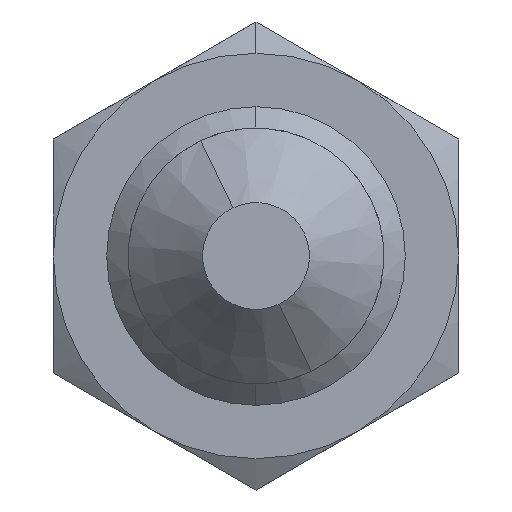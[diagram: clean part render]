
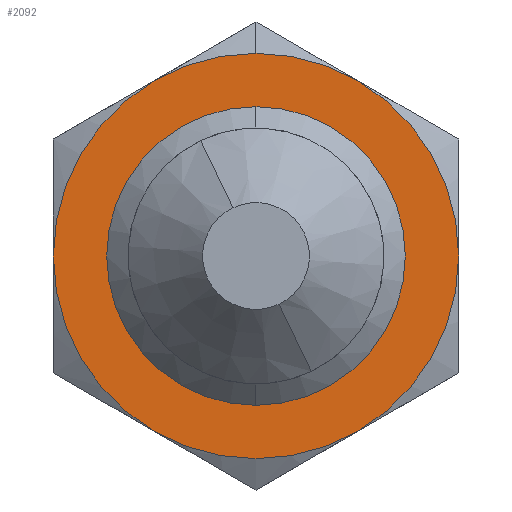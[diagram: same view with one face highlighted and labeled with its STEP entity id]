
A CAD part, left-side view. The second image highlights one B-rep face of the part: STEP entity #2092.
In plain terms, the highlighted planar face has unit normal (-1, 0, 0) as drawn and (0, 0, -1) by its records, which use the part's own axes.
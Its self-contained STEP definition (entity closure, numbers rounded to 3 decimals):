
#869 = VERTEX_POINT ( 'NONE', #3820 ) ;
#2037 = ORIENTED_EDGE ( 'NONE', *, *, #2136, .F. ) ;
#2047 = VERTEX_POINT ( 'NONE', #5920 ) ;
#2074 = VERTEX_POINT ( 'NONE', #6017 ) ;
#2080 = VERTEX_POINT ( 'NONE', #5996 ) ;
#2087 = ORIENTED_EDGE ( 'NONE', *, *, #2088, .T. ) ;
#2088 = EDGE_CURVE ( 'NONE', #2172, #2175, #6034, .T. ) ;
#2089 = ORIENTED_EDGE ( 'NONE', *, *, #2174, .T. ) ;
#2090 = EDGE_LOOP ( 'NONE', ( #2089, #2087 ) ) ;
#2091 = EDGE_LOOP ( 'NONE', ( #2037, #2137, #2139, #2141, #2143, #2145, #2146 ) ) ;
#2092 = ADVANCED_FACE ( 'NONE', ( #6030, #6029 ), #6028, .F. ) ;
#2107 = VERTEX_POINT ( 'NONE', #6052 ) ;
#2115 = EDGE_CURVE ( 'NONE', #2166, #2116, #6093, .T. ) ;
#2116 = VERTEX_POINT ( 'NONE', #6079 ) ;
#2136 = EDGE_CURVE ( 'NONE', #2107, #2074, #6164, .T. ) ;
#2137 = ORIENTED_EDGE ( 'NONE', *, *, #2138, .F. ) ;
#2138 = EDGE_CURVE ( 'NONE', #2047, #2107, #6151, .T. ) ;
#2139 = ORIENTED_EDGE ( 'NONE', *, *, #2140, .F. ) ;
#2140 = EDGE_CURVE ( 'NONE', #869, #2047, #6146, .T. ) ;
#2141 = ORIENTED_EDGE ( 'NONE', *, *, #2142, .F. ) ;
#2142 = EDGE_CURVE ( 'NONE', #2080, #869, #6141, .T. ) ;
#2143 = ORIENTED_EDGE ( 'NONE', *, *, #2144, .F. ) ;
#2144 = EDGE_CURVE ( 'NONE', #2116, #2080, #6191, .T. ) ;
#2145 = ORIENTED_EDGE ( 'NONE', *, *, #2115, .F. ) ;
#2146 = ORIENTED_EDGE ( 'NONE', *, *, #2147, .F. ) ;
#2147 = EDGE_CURVE ( 'NONE', #2074, #2166, #6186, .T. ) ;
#2166 = VERTEX_POINT ( 'NONE', #6199 ) ;
#2172 = VERTEX_POINT ( 'NONE', #6251 ) ;
#2174 = EDGE_CURVE ( 'NONE', #2175, #2172, #6244, .T. ) ;
#2175 = VERTEX_POINT ( 'NONE', #6239 ) ;
#3820 = CARTESIAN_POINT ( 'NONE',  ( 0., -9.5, -2.5 ) ) ;
#5920 = CARTESIAN_POINT ( 'NONE',  ( 8.227, -4.75, -2.5 ) ) ;
#5996 = CARTESIAN_POINT ( 'NONE',  ( -8.227, -4.75, -2.5 ) ) ;
#6017 = CARTESIAN_POINT ( 'NONE',  ( 0., 9.5, -2.5 ) ) ;
#6023 = DIRECTION ( 'NONE',  ( 1., 0., 0. ) ) ;
#6024 = DIRECTION ( 'NONE',  ( 0., 0., 1. ) ) ;
#6025 = CARTESIAN_POINT ( 'NONE',  ( 5.485, 9.5, -2.5 ) ) ;
#6027 = AXIS2_PLACEMENT_3D ( 'NONE', #6025, #6024, #6023 ) ;
#6028 = PLANE ( 'NONE',  #6027 ) ;
#6029 = FACE_OUTER_BOUND ( 'NONE', #2091, .T. ) ;
#6030 = FACE_BOUND ( 'NONE', #2090, .T. ) ;
#6031 = DIRECTION ( 'NONE',  ( 1., 0., 0. ) ) ;
#6032 = DIRECTION ( 'NONE',  ( 0., 0., 1. ) ) ;
#6033 = AXIS2_PLACEMENT_3D ( 'NONE', #6044, #6032, #6031 ) ;
#6034 = CIRCLE ( 'NONE', #6033, 7. ) ;
#6044 = CARTESIAN_POINT ( 'NONE',  ( 0., 0., -2.5 ) ) ;
#6052 = CARTESIAN_POINT ( 'NONE',  ( 8.227, 4.75, -2.5 ) ) ;
#6079 = CARTESIAN_POINT ( 'NONE',  ( -9.5, 0., -2.5 ) ) ;
#6080 = DIRECTION ( 'NONE',  ( 1., 0., 0. ) ) ;
#6081 = DIRECTION ( 'NONE',  ( 0., 0., 1. ) ) ;
#6082 = CARTESIAN_POINT ( 'NONE',  ( 0., 0., -2.5 ) ) ;
#6084 = AXIS2_PLACEMENT_3D ( 'NONE', #6082, #6081, #6080 ) ;
#6093 = CIRCLE ( 'NONE', #6084, 9.5 ) ;
#6141 = CIRCLE ( 'NONE', #6195, 9.5 ) ;
#6142 = DIRECTION ( 'NONE',  ( 1., 0., 0. ) ) ;
#6143 = DIRECTION ( 'NONE',  ( 0., 0., 1. ) ) ;
#6144 = CARTESIAN_POINT ( 'NONE',  ( 0., 0., -2.5 ) ) ;
#6145 = AXIS2_PLACEMENT_3D ( 'NONE', #6144, #6143, #6142 ) ;
#6146 = CIRCLE ( 'NONE', #6145, 9.5 ) ;
#6147 = DIRECTION ( 'NONE',  ( 1., 0., 0. ) ) ;
#6148 = DIRECTION ( 'NONE',  ( 0., 0., 1. ) ) ;
#6149 = CARTESIAN_POINT ( 'NONE',  ( 0., 0., -2.5 ) ) ;
#6150 = AXIS2_PLACEMENT_3D ( 'NONE', #6149, #6148, #6147 ) ;
#6151 = CIRCLE ( 'NONE', #6150, 9.5 ) ;
#6152 = DIRECTION ( 'NONE',  ( 1., 0., 0. ) ) ;
#6153 = DIRECTION ( 'NONE',  ( 0., 0., 1. ) ) ;
#6154 = CARTESIAN_POINT ( 'NONE',  ( 0., 0., -2.5 ) ) ;
#6155 = AXIS2_PLACEMENT_3D ( 'NONE', #6154, #6153, #6152 ) ;
#6164 = CIRCLE ( 'NONE', #6155, 9.5 ) ;
#6182 = DIRECTION ( 'NONE',  ( 1., 0., 0. ) ) ;
#6183 = DIRECTION ( 'NONE',  ( 0., 0., 1. ) ) ;
#6184 = CARTESIAN_POINT ( 'NONE',  ( 0., 0., -2.5 ) ) ;
#6185 = AXIS2_PLACEMENT_3D ( 'NONE', #6184, #6183, #6182 ) ;
#6186 = CIRCLE ( 'NONE', #6185, 9.5 ) ;
#6187 = DIRECTION ( 'NONE',  ( 1., 0., 0. ) ) ;
#6188 = DIRECTION ( 'NONE',  ( 0., 0., 1. ) ) ;
#6189 = CARTESIAN_POINT ( 'NONE',  ( 0., 0., -2.5 ) ) ;
#6190 = AXIS2_PLACEMENT_3D ( 'NONE', #6189, #6188, #6187 ) ;
#6191 = CIRCLE ( 'NONE', #6190, 9.5 ) ;
#6192 = DIRECTION ( 'NONE',  ( 1., 0., 0. ) ) ;
#6193 = DIRECTION ( 'NONE',  ( 0., 0., 1. ) ) ;
#6194 = CARTESIAN_POINT ( 'NONE',  ( 0., 0., -2.5 ) ) ;
#6195 = AXIS2_PLACEMENT_3D ( 'NONE', #6194, #6193, #6192 ) ;
#6199 = CARTESIAN_POINT ( 'NONE',  ( -8.227, 4.75, -2.5 ) ) ;
#6239 = CARTESIAN_POINT ( 'NONE',  ( -7., 0., -2.5 ) ) ;
#6240 = DIRECTION ( 'NONE',  ( 1., 0., 0. ) ) ;
#6241 = DIRECTION ( 'NONE',  ( 0., 0., 1. ) ) ;
#6242 = CARTESIAN_POINT ( 'NONE',  ( 0., 0., -2.5 ) ) ;
#6243 = AXIS2_PLACEMENT_3D ( 'NONE', #6242, #6241, #6240 ) ;
#6244 = CIRCLE ( 'NONE', #6243, 7. ) ;
#6251 = CARTESIAN_POINT ( 'NONE',  ( 7., 0., -2.5 ) ) ;
